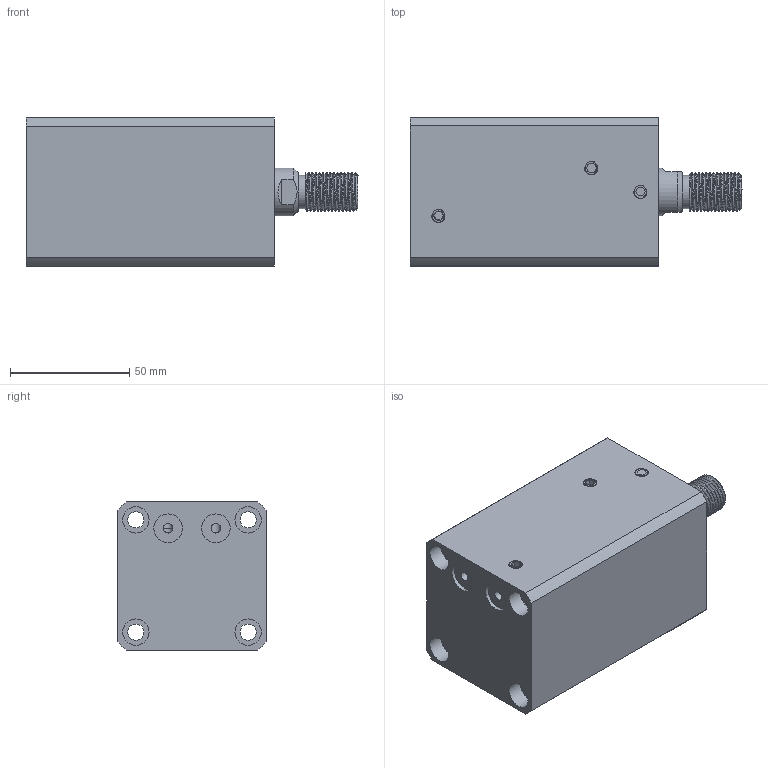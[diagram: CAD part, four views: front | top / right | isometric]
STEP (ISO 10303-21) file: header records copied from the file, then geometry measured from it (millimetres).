
FILE_DESCRIPTION(/* description */ (''),/* implementation_level */ '2;1');
FILE_NAME(/* name */ 'CHTB-sdmb32x50w.stp',/* time_stamp */ '2022-04-29T17:15:08+08:00',/* author */ (''),/* organization */ (''),/* preprocessor_version */ 'ST-DEVELOPER v16.7',/* originating_system */ 'SIEMENS PLM Software NX 12.0',/* authorisation */ '');
FILE_SCHEMA (('AUTOMOTIVE_DESIGN { 1 0 10303 214 3 1 1 1 }'));
Length unit declared in the file: millimetre
Products named in the file (1): CHTB-sdmb32x50w
Bounding box: 139 x 62 x 62 mm (x, y, z)
Volume: 359119 mm3; surface area: 74774.6 mm2
Topology: 6 solids, 6 shells, 586 faces, 1609 edges, 1084 vertices
Faces by surface type: plane 336, extrusion 111, cylinder 64, bspline 48, cone 15, torus 12
Full cylindrical faces by diameter (mm): 3 x2, 4 x4, 6.8 x4, 11 x8, 12 x2, 14 x1, 20 x2, 24.5 x1, 26 x2, 32 x4, 40 x1
Entity records: 37441 total; most frequent: CARTESIAN_POINT 21077, ORIENTED_EDGE 3070, DIRECTION 2133, EDGE_CURVE 1535, VERTEX_POINT 1062, VECTOR 1037, LINE 926, EDGE_LOOP 703
